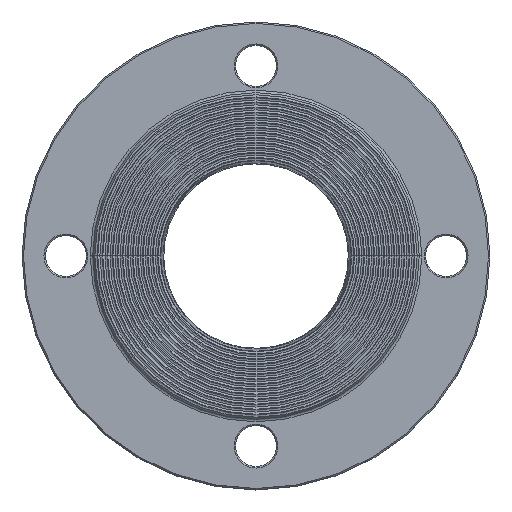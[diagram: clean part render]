
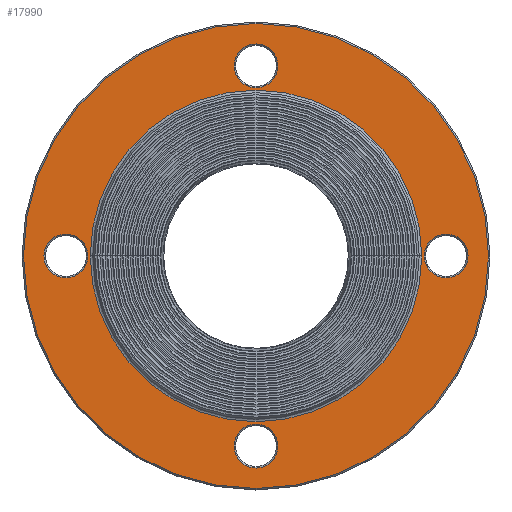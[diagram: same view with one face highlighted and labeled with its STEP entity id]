
A CAD part, top view. The second image highlights one B-rep face of the part: STEP entity #17990.
In plain terms, the highlighted planar face has unit normal (0, 0, 1) as drawn and (-1, 0, 0) by its records, which use the part's own axes.
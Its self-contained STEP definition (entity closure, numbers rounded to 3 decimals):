
#4640=CARTESIAN_POINT('',(-14.676,0.,79.5));
#4650=VERTEX_POINT('',#4640);
#4730=CARTESIAN_POINT('',(-14.676,0.,-79.5))
;
#4740=VERTEX_POINT('',#4730);
#4770=CARTESIAN_POINT('',(-14.676,0.,
0.));
#4780=DIRECTION('',(-1.,0.,0.));
#4790=DIRECTION('',(0.,0.,1.));
#4800=AXIS2_PLACEMENT_3D('',#4770,#4780,#4790);
#4810=CIRCLE('',#4800,79.5);
#4820=EDGE_CURVE('',#4740,#4650,#4810,.T.);
#16990=CARTESIAN_POINT('',(-14.676,0.,
-56.688));
#17000=VERTEX_POINT('',#16990);
#17030=CARTESIAN_POINT('',(-14.676,0.,
0.));
#17040=DIRECTION('',(-1.,0.,0.));
#17050=DIRECTION('',(0.,0.,-1.));
#17060=AXIS2_PLACEMENT_3D('',#17030,#17040,#17050);
#17070=CIRCLE('',#17060,56.688);
#17080=CARTESIAN_POINT('',(-14.676,0.,
56.688));
#17090=VERTEX_POINT('',#17080);
#17100=EDGE_CURVE('',#17090,#17000,#17070,.T.);
#17240=CARTESIAN_POINT('',(-14.676,0.,
-68.937));
#17250=DIRECTION('',(1.,0.,0.));
#17260=DIRECTION('',(0.,0.,-1.));
#17270=AXIS2_PLACEMENT_3D('',#17240,#17250,#17260);
#17280=PLANE('',#17270);
#17290=CARTESIAN_POINT('',(-14.676,65.,0.));
#17300=DIRECTION('',(-1.,0.,0.));
#17310=DIRECTION('',(0.,0.,1.));
#17320=AXIS2_PLACEMENT_3D('',#17290,#17300,#17310);
#17330=CIRCLE('',#17320,7.5);
#17340=CARTESIAN_POINT('',(-14.676,65.,7.5));
#17350=VERTEX_POINT('',#17340);
#17360=CARTESIAN_POINT('',(-14.676,65.,-7.5));
#17370=VERTEX_POINT('',#17360);
#17380=EDGE_CURVE('',#17350,#17370,#17330,.T.);
#17390=ORIENTED_EDGE('',*,*,#17380,.F.);
#17400=EDGE_CURVE('',#17370,#17350,#17330,.T.);
#17410=ORIENTED_EDGE('',*,*,#17400,.F.);
#17420=EDGE_LOOP('',(#17410,#17390));
#17430=FACE_BOUND('',#17420,.T.);
#17440=CARTESIAN_POINT('',(-14.676,0.,-65.)
);
#17450=DIRECTION('',(-1.,0.,0.));
#17460=DIRECTION('',(0.,0.,1.));
#17470=AXIS2_PLACEMENT_3D('',#17440,#17450,#17460);
#17480=CIRCLE('',#17470,7.5);
#17490=CARTESIAN_POINT('',(-14.676,0.,-57.5
));
#17500=VERTEX_POINT('',#17490);
#17510=CARTESIAN_POINT('',(-14.676,0.,-72.5
));
#17520=VERTEX_POINT('',#17510);
#17530=EDGE_CURVE('',#17500,#17520,#17480,.T.);
#17540=ORIENTED_EDGE('',*,*,#17530,.F.);
#17550=EDGE_CURVE('',#17520,#17500,#17480,.T.);
#17560=ORIENTED_EDGE('',*,*,#17550,.F.);
#17570=EDGE_LOOP('',(#17560,#17540));
#17580=FACE_BOUND('',#17570,.T.);
#17590=CARTESIAN_POINT('',(-14.676,0.,65.))
;
#17600=DIRECTION('',(-1.,0.,0.));
#17610=DIRECTION('',(0.,0.,1.));
#17620=AXIS2_PLACEMENT_3D('',#17590,#17600,#17610);
#17630=CIRCLE('',#17620,7.5);
#17640=CARTESIAN_POINT('',(-14.676,0.,72.5)
);
#17650=VERTEX_POINT('',#17640);
#17660=CARTESIAN_POINT('',(-14.676,0.,57.5)
);
#17670=VERTEX_POINT('',#17660);
#17680=EDGE_CURVE('',#17650,#17670,#17630,.T.);
#17690=ORIENTED_EDGE('',*,*,#17680,.F.);
#17700=EDGE_CURVE('',#17670,#17650,#17630,.T.);
#17710=ORIENTED_EDGE('',*,*,#17700,.F.);
#17720=EDGE_LOOP('',(#17710,#17690));
#17730=FACE_BOUND('',#17720,.T.);
#17740=EDGE_CURVE('',#17000,#17090,#17070,.T.);
#17750=ORIENTED_EDGE('',*,*,#17740,.F.);
#17760=ORIENTED_EDGE('',*,*,#17100,.F.);
#17770=EDGE_LOOP('',(#17760,#17750));
#17780=FACE_BOUND('',#17770,.T.);
#17790=CARTESIAN_POINT('',(-14.676,-65.,0.));
#17800=DIRECTION('',(-1.,0.,0.));
#17810=DIRECTION('',(0.,0.,1.));
#17820=AXIS2_PLACEMENT_3D('',#17790,#17800,#17810);
#17830=CIRCLE('',#17820,7.5);
#17840=CARTESIAN_POINT('',(-14.676,-65.,7.5));
#17850=VERTEX_POINT('',#17840);
#17860=CARTESIAN_POINT('',(-14.676,-65.,-7.5));
#17870=VERTEX_POINT('',#17860);
#17880=EDGE_CURVE('',#17850,#17870,#17830,.T.);
#17890=ORIENTED_EDGE('',*,*,#17880,.F.);
#17900=EDGE_CURVE('',#17870,#17850,#17830,.T.);
#17910=ORIENTED_EDGE('',*,*,#17900,.F.);
#17920=EDGE_LOOP('',(#17910,#17890));
#17930=FACE_BOUND('',#17920,.T.);
#17940=EDGE_CURVE('',#4650,#4740,#4810,.T.);
#17950=ORIENTED_EDGE('',*,*,#17940,.T.);
#17960=ORIENTED_EDGE('',*,*,#4820,.T.);
#17970=EDGE_LOOP('',(#17960,#17950));
#17980=FACE_OUTER_BOUND('',#17970,.T.);
#17990=ADVANCED_FACE('',(#17430,#17580,#17730,#17780,#17930,#17980),
#17280,.F.);
